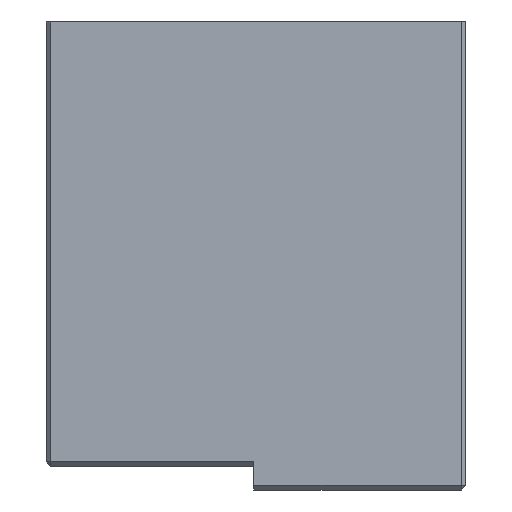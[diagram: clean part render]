
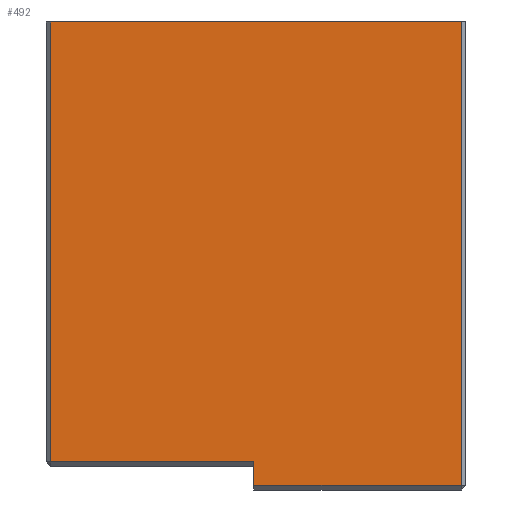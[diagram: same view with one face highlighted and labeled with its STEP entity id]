
A CAD part, left-side view. The second image highlights one B-rep face of the part: STEP entity #492.
In plain terms, the highlighted planar face has unit normal (-1, 0, 0).
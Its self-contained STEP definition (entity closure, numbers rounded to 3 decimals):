
#50=FACE_OUTER_BOUND('',#83,.T.);
#83=EDGE_LOOP('',(#359,#360,#361,#362,#363,#364));
#128=LINE('',#757,#182);
#132=LINE('',#764,#186);
#134=LINE('',#773,#188);
#135=LINE('',#775,#189);
#136=LINE('',#777,#190);
#137=LINE('',#778,#191);
#182=VECTOR('',#610,10.);
#186=VECTOR('',#616,10.);
#188=VECTOR('',#626,10.);
#189=VECTOR('',#627,10.);
#190=VECTOR('',#628,10.);
#191=VECTOR('',#629,10.);
#222=VERTEX_POINT('',#726);
#232=VERTEX_POINT('',#755);
#233=VERTEX_POINT('',#760);
#237=VERTEX_POINT('',#772);
#238=VERTEX_POINT('',#774);
#239=VERTEX_POINT('',#776);
#276=EDGE_CURVE('',#232,#222,#128,.T.);
#280=EDGE_CURVE('',#222,#233,#132,.T.);
#284=EDGE_CURVE('',#237,#232,#134,.T.);
#285=EDGE_CURVE('',#238,#237,#135,.T.);
#286=EDGE_CURVE('',#239,#238,#136,.T.);
#287=EDGE_CURVE('',#239,#233,#137,.T.);
#359=ORIENTED_EDGE('',*,*,#280,.F.);
#360=ORIENTED_EDGE('',*,*,#276,.F.);
#361=ORIENTED_EDGE('',*,*,#284,.F.);
#362=ORIENTED_EDGE('',*,*,#285,.F.);
#363=ORIENTED_EDGE('',*,*,#286,.F.);
#364=ORIENTED_EDGE('',*,*,#287,.T.);
#467=PLANE('',#548);
#492=ADVANCED_FACE('',(#50),#467,.T.);
#548=AXIS2_PLACEMENT_3D('',#771,#624,#625);
#610=DIRECTION('',(0.,0.,-1.));
#616=DIRECTION('',(0.,1.,0.));
#624=DIRECTION('center_axis',(-1.,0.,0.));
#625=DIRECTION('ref_axis',(0.,-1.,0.));
#626=DIRECTION('',(0.,-1.,0.));
#627=DIRECTION('',(0.,0.,1.));
#628=DIRECTION('',(0.,1.,0.));
#629=DIRECTION('',(0.,0.,-1.));
#726=CARTESIAN_POINT('',(-17.,-9.3,0.2));
#755=CARTESIAN_POINT('',(-17.,-9.3,20.));
#757=CARTESIAN_POINT('',(-17.,-9.3,0.));
#760=CARTESIAN_POINT('',(-17.,-0.44,0.2));
#764=CARTESIAN_POINT('',(-17.,3.955,0.2));
#771=CARTESIAN_POINT('Origin',(-17.,8.44,0.));
#772=CARTESIAN_POINT('',(-17.,8.24,20.));
#773=CARTESIAN_POINT('',(-17.,9.5,20.));
#774=CARTESIAN_POINT('',(-17.,8.24,1.2));
#775=CARTESIAN_POINT('',(-17.,8.24,0.));
#776=CARTESIAN_POINT('',(-17.,-0.44,1.2));
#777=CARTESIAN_POINT('',(-17.,6.22,1.2));
#778=CARTESIAN_POINT('',(-17.,-0.44,0.));
